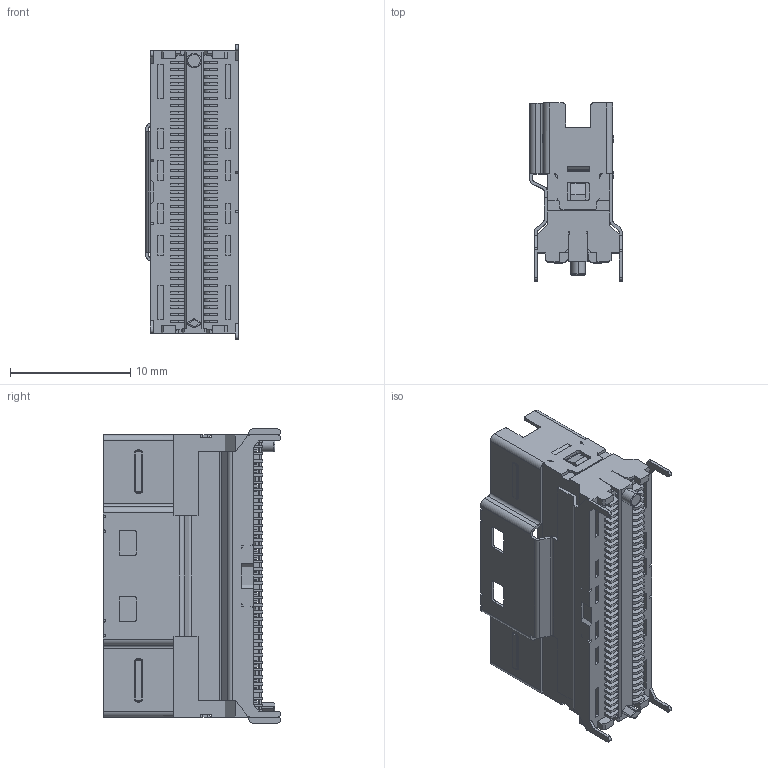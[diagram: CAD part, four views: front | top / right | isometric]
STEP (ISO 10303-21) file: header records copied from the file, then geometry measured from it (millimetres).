
FILE_DESCRIPTION((''),'2;1');
FILE_NAME('PSL060-7433-B01-1H-X2_SW0001_2','2026-07-11T14:14:04',('31000862'),(''),'CREO PARAMETRIC BY PTC INC, 2022244','CREO PARAMETRIC BY PTC INC, 2022244','');
FILE_SCHEMA(('AUTOMOTIVE_DESIGN { 1 0 10303 214 1 1 1 1 }'));
Products named in the file (1): PSL060-7433-B01-1H-X2_SW0001_2
Bounding box: 7.71 x 14.8 x 24.5 mm (x, y, z)
Volume: 926.8 mm3; surface area: 2235.2 mm2
Topology: 1 solids, 1 shells, 1727 faces, 4623 edges, 3052 vertices
Faces by surface type: plane 1301, cylinder 370, torus 34, cone 16, bspline 6
Entity records: 66451 total; most frequent: CARTESIAN_POINT 9640, ORIENTED_EDGE 9244, DIRECTION 8895, EDGE_CURVE 4622, VECTOR 3735, LINE 3735, VERTEX_POINT 3052, AXIS2_PLACEMENT_3D 2580
